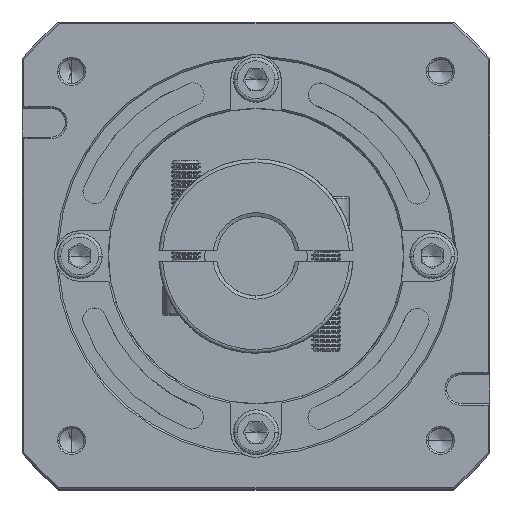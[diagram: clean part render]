
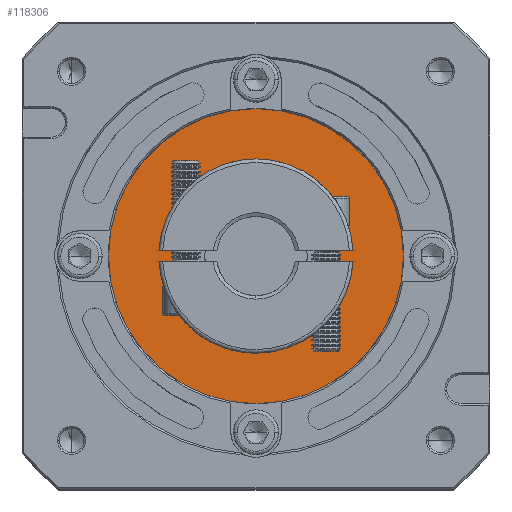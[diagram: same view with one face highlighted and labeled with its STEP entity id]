
A CAD part, top view. The second image highlights one B-rep face of the part: STEP entity #118306.
In plain terms, the highlighted planar face has unit normal (0, 0, 1).
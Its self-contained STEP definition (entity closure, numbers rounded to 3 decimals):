
#519 = DIRECTION ( 'NONE',  ( 0., 0., -1. ) ) ;
#3788 = CIRCLE ( 'NONE', #15356, 20. ) ;
#10106 = CARTESIAN_POINT ( 'NONE',  ( 60.547, 56.49, -19.194 ) ) ;
#12479 = DIRECTION ( 'NONE',  ( 1., 0., 0. ) ) ;
#14321 = CIRCLE ( 'NONE', #121856, 41. ) ;
#15356 = AXIS2_PLACEMENT_3D ( 'NONE', #10106, #53347, #136732 ) ;
#21377 = AXIS2_PLACEMENT_3D ( 'NONE', #27439, #112179, #36679 ) ;
#27439 = CARTESIAN_POINT ( 'NONE',  ( 60.547, 56.49, -19.194 ) ) ;
#35690 = CARTESIAN_POINT ( 'NONE',  ( 19.547, 56.49, -19.194 ) ) ;
#36139 = CARTESIAN_POINT ( 'NONE',  ( 40.547, 56.49, -19.194 ) ) ;
#36404 = AXIS2_PLACEMENT_3D ( 'NONE', #104244, #40660, #72884 ) ;
#36679 = DIRECTION ( 'NONE',  ( 1., 0., 0. ) ) ;
#40570 = AXIS2_PLACEMENT_3D ( 'NONE', #54365, #519, #12479 ) ;
#40660 = DIRECTION ( 'NONE',  ( 0., 0., 1. ) ) ;
#40983 = EDGE_LOOP ( 'NONE', ( #131377, #72282 ) ) ;
#42668 = VERTEX_POINT ( 'NONE', #36139 ) ;
#42881 = CARTESIAN_POINT ( 'NONE',  ( 60.547, 56.49, -19.194 ) ) ;
#53320 = EDGE_CURVE ( 'NONE', #42668, #72171, #3788, .T. ) ;
#53347 = DIRECTION ( 'NONE',  ( 0., 0., -1. ) ) ;
#54365 = CARTESIAN_POINT ( 'NONE',  ( 60.547, 56.49, -19.194 ) ) ;
#58739 = FACE_OUTER_BOUND ( 'NONE', #100214, .T. ) ;
#64708 = CARTESIAN_POINT ( 'NONE',  ( 101.547, 56.49, -19.194 ) ) ;
#66001 = ORIENTED_EDGE ( 'NONE', *, *, #66893, .T. ) ;
#66893 = EDGE_CURVE ( 'NONE', #67943, #76229, #76708, .T. ) ;
#67943 = VERTEX_POINT ( 'NONE', #35690 ) ;
#72171 = VERTEX_POINT ( 'NONE', #102419 ) ;
#72282 = ORIENTED_EDGE ( 'NONE', *, *, #53320, .T. ) ;
#72884 = DIRECTION ( 'NONE',  ( 1., 0., 0. ) ) ;
#76229 = VERTEX_POINT ( 'NONE', #64708 ) ;
#76708 = CIRCLE ( 'NONE', #36404, 41. ) ;
#80423 = PLANE ( 'NONE',  #21377 ) ;
#88903 = EDGE_CURVE ( 'NONE', #76229, #67943, #14321, .T. ) ;
#91531 = ORIENTED_EDGE ( 'NONE', *, *, #88903, .T. ) ;
#94996 = FACE_BOUND ( 'NONE', #40983, .T. ) ;
#96151 = EDGE_CURVE ( 'NONE', #72171, #42668, #129728, .T. ) ;
#100214 = EDGE_LOOP ( 'NONE', ( #91531, #66001 ) ) ;
#102419 = CARTESIAN_POINT ( 'NONE',  ( 80.547, 56.49, -19.194 ) ) ;
#104244 = CARTESIAN_POINT ( 'NONE',  ( 60.547, 56.49, -19.194 ) ) ;
#112179 = DIRECTION ( 'NONE',  ( 0., 0., 1. ) ) ;
#117509 = DIRECTION ( 'NONE',  ( 1., 0., 0. ) ) ;
#118306 = ADVANCED_FACE ( 'NONE', ( #58739, #94996 ), #80423, .T. ) ;
#121856 = AXIS2_PLACEMENT_3D ( 'NONE', #42881, #126758, #117509 ) ;
#126758 = DIRECTION ( 'NONE',  ( 0., 0., 1. ) ) ;
#129728 = CIRCLE ( 'NONE', #40570, 20. ) ;
#131377 = ORIENTED_EDGE ( 'NONE', *, *, #96151, .T. ) ;
#136732 = DIRECTION ( 'NONE',  ( 1., 0., 0. ) ) ;
